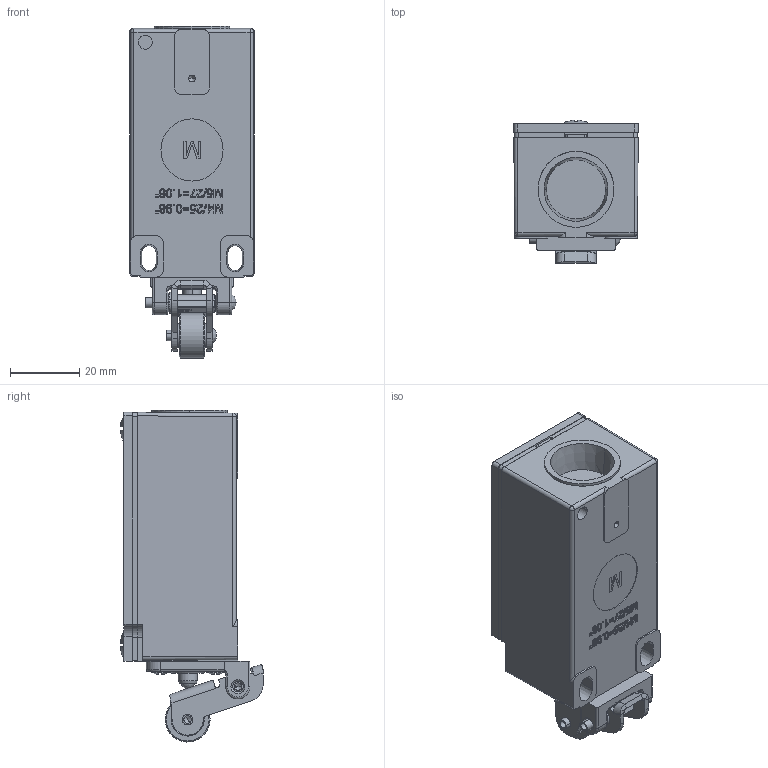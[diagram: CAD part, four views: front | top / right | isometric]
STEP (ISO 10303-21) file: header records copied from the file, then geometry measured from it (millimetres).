
FILE_DESCRIPTION((''),'2;1');
FILE_NAME('6021370629_SW0004','2025-02-19T07:06:53',('Hartwig.Bicknese'),(''),'CREO PARAMETRIC BY PTC INC, 2022124','CREO PARAMETRIC BY PTC INC, 2022124','');
FILE_SCHEMA(('AUTOMOTIVE_DESIGN { 1 0 10303 214 1 1 1 1 }'));
Length unit declared in the file: millimetre
Products named in the file (1): 6021370629_SW0004
Bounding box: 36 x 41.45 x 96.12 mm (x, y, z)
Volume: 83788 mm3; surface area: 18825.5 mm2
Topology: 3 solids, 3 shells, 1027 faces, 2577 edges, 1578 vertices
Faces by surface type: plane 539, extrusion 211, cylinder 140, cone 85, torus 26, sphere 16, bspline 10
Entity records: 49470 total; most frequent: CARTESIAN_POINT 9437, ORIENTED_EDGE 5074, DIRECTION 4318, PRESENTATION_STYLE_ASSIGNMENT 3778, STYLED_ITEM 2751, CURVE_STYLE 2748, EDGE_CURVE 2537, VECTOR 1776
